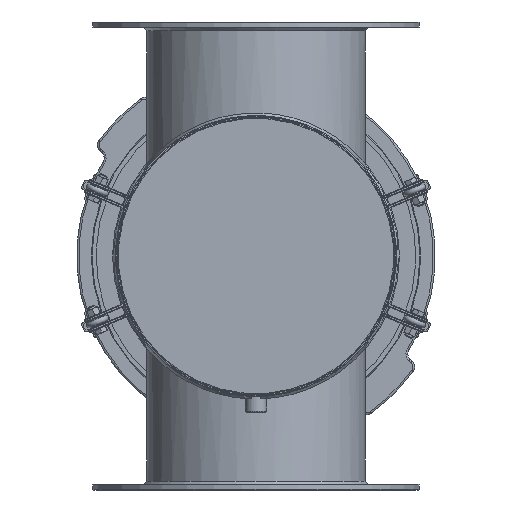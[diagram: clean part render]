
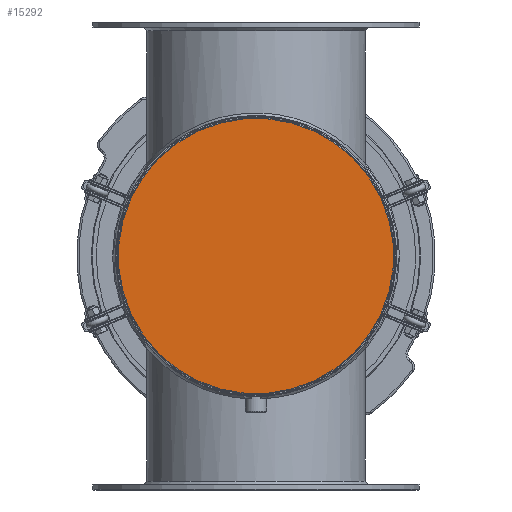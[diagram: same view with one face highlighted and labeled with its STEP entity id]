
A CAD part, front view. The second image highlights one B-rep face of the part: STEP entity #15292.
In plain terms, the highlighted planar face has unit normal (0, -1, 0).
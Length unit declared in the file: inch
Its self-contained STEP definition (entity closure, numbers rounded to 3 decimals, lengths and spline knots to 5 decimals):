
#1455=CIRCLE('',#16408,8.825);
#3124=FACE_OUTER_BOUND('',#4167,.T.);
#4167=EDGE_LOOP('',(#11004));
#7202=VERTEX_POINT('',#27565);
#8604=EDGE_CURVE('',#7202,#7202,#1455,.T.);
#11004=ORIENTED_EDGE('',*,*,#8604,.F.);
#14932=PLANE('',#16411);
#15292=ADVANCED_FACE('',(#3124),#14932,.F.);
#16408=AXIS2_PLACEMENT_3D('',#27566,#18873,#18874);
#16411=AXIS2_PLACEMENT_3D('',#27570,#18879,#18880);
#18873=DIRECTION('center_axis',(0.,1.,0.));
#18874=DIRECTION('ref_axis',(1.,0.,0.));
#18879=DIRECTION('center_axis',(0.,1.,0.));
#18880=DIRECTION('ref_axis',(0.,0.,1.));
#27565=CARTESIAN_POINT('',(-8.825,0.,0.));
#27566=CARTESIAN_POINT('Origin',(0.,0.,0.));
#27570=CARTESIAN_POINT('Origin',(0.,0.,0.));
